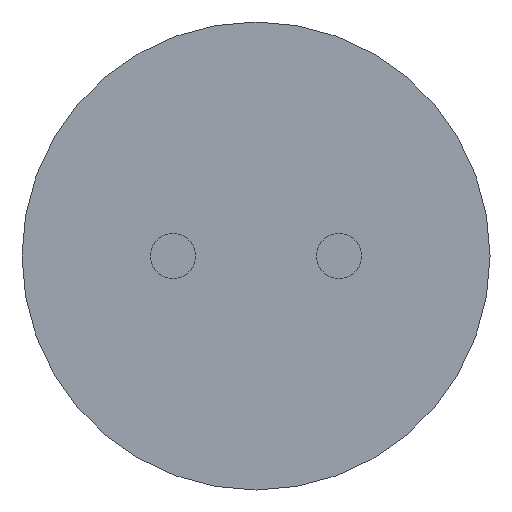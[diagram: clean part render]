
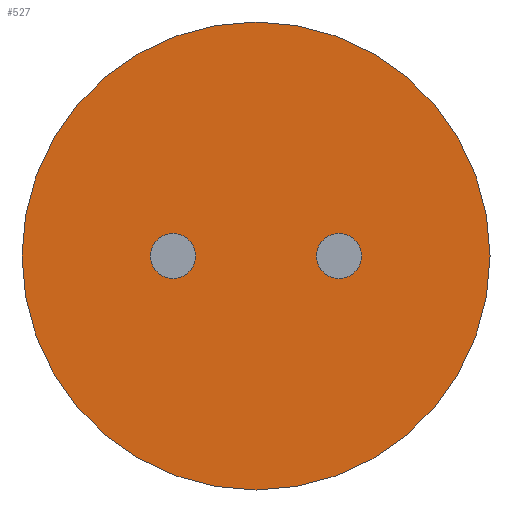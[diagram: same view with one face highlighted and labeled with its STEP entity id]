
A CAD part, front view. The second image highlights one B-rep face of the part: STEP entity #527.
In plain terms, the highlighted planar face has unit normal (0, -1, 0).
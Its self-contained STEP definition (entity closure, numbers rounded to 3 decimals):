
#437 = CARTESIAN_POINT ( 'NONE',  ( 0., 0., 1.55 ) ) ;
#438 = VERTEX_POINT ( 'NONE', #437 ) ;
#445 = CARTESIAN_POINT ( 'NONE',  ( 0., 0., -1.55 ) ) ;
#446 = VERTEX_POINT ( 'NONE', #445 ) ;
#447 = CARTESIAN_POINT ( 'NONE',  ( 0., 0., 0. ) ) ;
#448 = DIRECTION ( 'NONE',  ( 0., 1., 0. ) ) ;
#449 = DIRECTION ( 'NONE',  ( 0., 0., 1. ) ) ;
#450 = AXIS2_PLACEMENT_3D ( 'NONE', #447, #448, #449 ) ;
#451 = CIRCLE ( 'NONE', #450, 1.55) ;
#452 = EDGE_CURVE ( 'NONE', #438, #446, #451, .T. ) ;
#503 = CARTESIAN_POINT ( 'NONE',  ( 0., 0., 0. ) ) ;
#504 = DIRECTION ( 'NONE',  ( 0., 1., 0. ) ) ;
#505 = DIRECTION ( 'NONE',  ( 0., 0., 1. ) ) ;
#506 = AXIS2_PLACEMENT_3D ( 'NONE', #503, #504, #505 ) ;
#507 = CIRCLE ( 'NONE', #506, 1.55) ;
#508 = EDGE_CURVE ( 'NONE', #446, #438, #507, .T. ) ;
#518 = ORIENTED_EDGE ( 'NONE', *, *, #508, .F. ) ;
#519 = ORIENTED_EDGE ( 'NONE', *, *, #452, .F. ) ;
#520 = EDGE_LOOP ( 'NONE', ( #518, #519 ) ) ;
#521 = FACE_OUTER_BOUND ( 'NONE', #520, .T. ) ;
#522 = CARTESIAN_POINT ( 'NONE',  ( 0., 0., 0. ) ) ;
#523 = DIRECTION ( 'NONE',  ( 0., 1., 0. ) ) ;
#524 = DIRECTION ( 'NONE',  ( 0., 0., 1. ) ) ;
#525 = AXIS2_PLACEMENT_3D ( 'NONE', #522, #523, #524 ) ;
#526 = PLANE ( 'NONE', #525 ) ;
#527 = ADVANCED_FACE ( 'NONE', ( #521 ), #526, .F. ) ;
